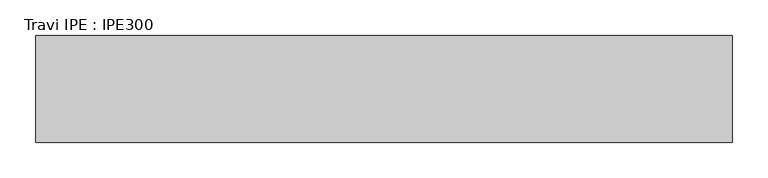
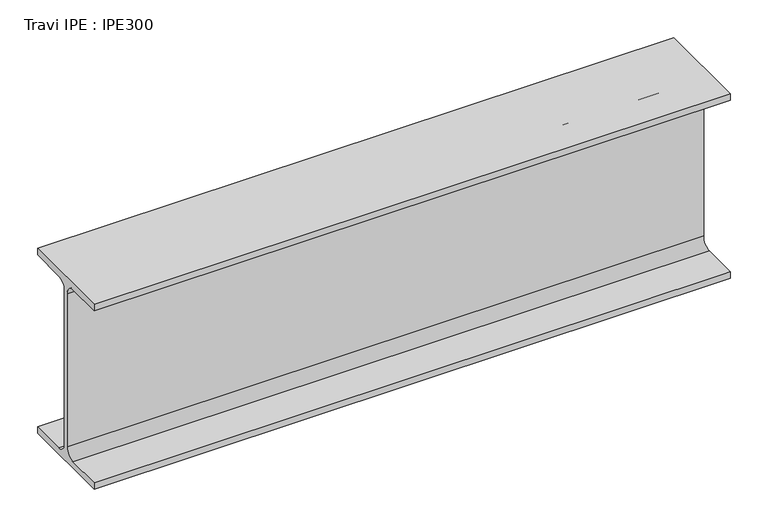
"""IFC4 building model written with IfcOpenShell, lengths in millimetres: beam geometry, Travi IPE : IPE300."""

from ifc_helpers import new_model, si_unit, point, frame, frame_2d, origin, place, context, project, spatial, polyline, circle_curve, trimmed, segment, composite_curve, outline, extrude, source, transform, mapped, element, save


def travi_ipe_ipe300_4159704f(model_context):
    return source(origin(), model_context, "Body", "SweptSolid", [
        extrude(outline(composite_curve([segment(polyline([(75.0, -139.3), (75.0, -150.0), (-75.0, -150.0), (-75.0, -139.3), (-18.55, -139.3)]), True, "CONTINUOUS"), segment(trimmed(circle_curve(frame_2d((-18.55, -124.3)), 15.0), [point((-18.55, -139.3))], [point((-3.55, -124.3))], True, "CARTESIAN"), True, "CONTINUOUS"), segment(polyline([(-3.55, -124.3), (-3.55, 124.3)]), True, "CONTINUOUS"), segment(trimmed(circle_curve(frame_2d((-18.55, 124.3)), 15.0), [point((-3.55, 124.3))], [point((-18.55, 139.3))], True, "CARTESIAN"), True, "CONTINUOUS"), segment(polyline([(-18.55, 139.3), (-75.0, 139.3), (-75.0, 150.0), (75.0, 150.0), (75.0, 139.3), (18.55, 139.3)]), True, "CONTINUOUS"), segment(trimmed(circle_curve(frame_2d((18.55, 124.3)), 15.0), [point((18.55, 139.3))], [point((3.55, 124.3))], True, "CARTESIAN"), True, "CONTINUOUS"), segment(polyline([(3.55, 124.3), (3.55, -124.3)]), True, "CONTINUOUS"), segment(trimmed(circle_curve(frame_2d((18.55, -124.3)), 15.0), [point((3.55, -124.3))], [point((18.55, -139.3))], True, "CARTESIAN"), True, "CONTINUOUS"), segment(polyline([(18.55, -139.3), (75.0, -139.3)]), True, "CONTINUOUS")], self_intersect=False)), frame((-451.0, 0.0, 0.0), z_axis=(1.0, 0.0, 0.0), x_axis=(0.0, 1.0, 0.0)), (0.0, 0.0, 1.0), 977.0),
    ])


if __name__ == "__main__":
    model = new_model("IFC4")
    model_context = context("Model", 3, world=origin())
    ifc_project = project(units=[si_unit("LENGTHUNIT", "METRE", prefix="MILLI")], contexts=[model_context])
    site = spatial("IfcSite", under=ifc_project)
    building = spatial("IfcBuilding", under=site)
    placement = place(None, origin())
    travi_ipe_ipe300_shape = travi_ipe_ipe300_4159704f(model_context)
    element("IfcBeam", 1, ObjectType="Travi IPE : IPE300", at=placement, inside=building, context=model_context, shape_type="MappedRepresentation", body=[
        mapped(travi_ipe_ipe300_shape, transform((0.0, 0.0, 0.0), x_axis=(1.0, 0.0, 0.0), y_axis=(0.0, 1.0, 0.0), z_axis=(0.0, 0.0, 1.0))),
    ])
    save(model, "model.ifc")
